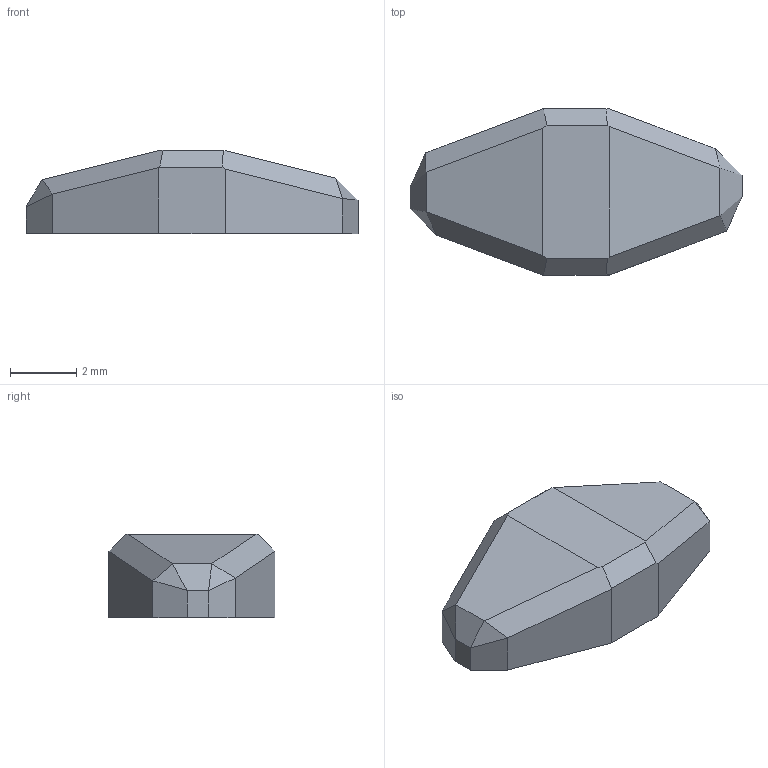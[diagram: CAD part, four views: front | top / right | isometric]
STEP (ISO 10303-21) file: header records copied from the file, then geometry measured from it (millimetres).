
FILE_DESCRIPTION (( 'STEP AP214' ), '1' );
FILE_NAME ('Knee Armor.STEP', '2023-12-23T22:30:16', ( '' ), ( '' ), 'SwSTEP 2.0', 'SolidWorks 2023', '' );
FILE_SCHEMA (( 'AUTOMOTIVE_DESIGN' ));
Length unit declared in the file: millimetre
Products named in the file (1): Knee Armor
Bounding box: 10 x 5 x 2.5 mm (x, y, z)
Volume: 66.7 mm3; surface area: 137.2 mm2
Topology: 1 solids, 1 shells, 33 faces, 78 edges, 48 vertices
Faces by surface type: plane 33
Entity records: 939 total; most frequent: CARTESIAN_POINT 160, ORIENTED_EDGE 156, DIRECTION 146, EDGE_CURVE 78, VECTOR 78, LINE 78, VERTEX_POINT 48, AXIS2_PLACEMENT_3D 34
